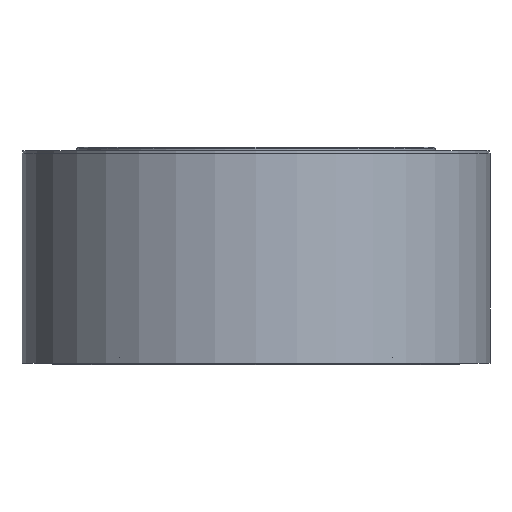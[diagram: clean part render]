
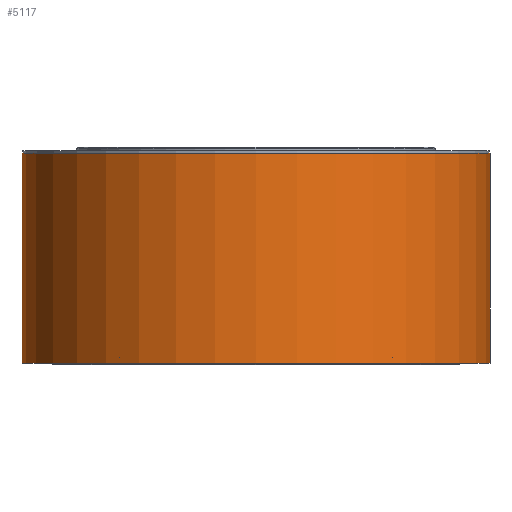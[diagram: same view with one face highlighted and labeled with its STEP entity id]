
A CAD part, front view. The second image highlights one B-rep face of the part: STEP entity #5117.
In plain terms, the highlighted cylindrical face has radius 180 mm (diameter 360 mm), a partial arc.
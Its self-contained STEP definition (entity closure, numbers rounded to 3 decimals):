
#275=CARTESIAN_POINT('',(0.,0.,1.));
#276=DIRECTION('',(0.,0.,-1.));
#277=DIRECTION('',(1.,0.,0.));
#278=AXIS2_PLACEMENT_3D('',#275,#276,#277);
#672=CARTESIAN_POINT('',(0.,0.,162.5));
#673=DIRECTION('',(0.,0.,1.));
#674=DIRECTION('',(-1.,0.,0.));
#675=AXIS2_PLACEMENT_3D('',#672,#673,#674);
#692=DIRECTION('',(0.,0.,-1.));
#693=VECTOR('',#692,161.5);
#694=CARTESIAN_POINT('',(180.,0.,162.5));
#695=LINE('',#694,#693);
#696=DIRECTION('',(0.,0.,1.));
#697=VECTOR('',#696,161.5);
#698=CARTESIAN_POINT('',(-180.,0.,1.));
#699=LINE('',#698,#697);
#3724=CARTESIAN_POINT('',(180.,0.,162.5));
#3725=CARTESIAN_POINT('',(-180.,0.,162.5));
#3726=VERTEX_POINT('',#3724);
#3727=VERTEX_POINT('',#3725);
#4436=CARTESIAN_POINT('',(-180.,0.,1.));
#4437=CARTESIAN_POINT('',(180.,0.,1.));
#4438=VERTEX_POINT('',#4436);
#4439=VERTEX_POINT('',#4437);
#5106=CARTESIAN_POINT('',(0.,0.,162.5));
#5107=DIRECTION('',(0.,0.,-1.));
#5108=DIRECTION('',(-1.,0.,0.));
#5109=AXIS2_PLACEMENT_3D('',#5106,#5107,#5108);
#5110=CYLINDRICAL_SURFACE('',#5109,180.);
#5111=ORIENTED_EDGE('',*,*,#4678,.T.);
#5112=ORIENTED_EDGE('',*,*,#4601,.T.);
#5113=ORIENTED_EDGE('',*,*,#4675,.T.);
#5114=ORIENTED_EDGE('',*,*,#5095,.T.);
#5115=EDGE_LOOP('',(#5111,#5112,#5113,#5114));
#5116=FACE_OUTER_BOUND('',#5115,.F.);
#5117=ADVANCED_FACE('',(#5116),#5110,.T.);
#279=CIRCLE('',#278,180.);
#676=CIRCLE('',#675,180.);
#4601=EDGE_CURVE('',#4439,#4438,#279,.T.);
#4675=EDGE_CURVE('',#4438,#3727,#699,.T.);
#4678=EDGE_CURVE('',#3726,#4439,#695,.T.);
#5095=EDGE_CURVE('',#3727,#3726,#676,.T.);
